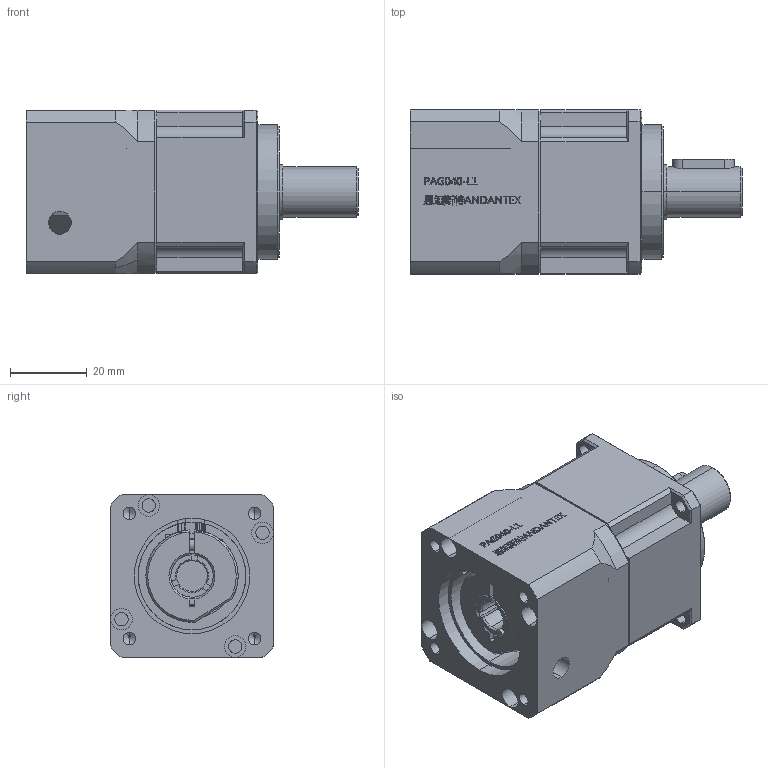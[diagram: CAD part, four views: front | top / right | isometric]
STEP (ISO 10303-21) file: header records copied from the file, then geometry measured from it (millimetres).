
FILE_DESCRIPTION (( 'STEP AP203' ), '1' );
FILE_NAME ('PAG040-L1.STEP', '2021-04-12T14:59:34', ( 'Windows User' ), ( 'P R C' ), 'SwSTEP 2.0', 'SolidWorks 2016', '' );
FILE_SCHEMA (( 'CONFIG_CONTROL_DESIGN' ));
Length unit declared in the file: millimetre
Products named in the file (8): PAG40-WZ01(帣釱)_1123; PAG40-CLZ05(喘謫粣); PAG40-SJH(坶踡遠); M3x12; 旮僱⑩粣創61902-2Z; 5X5X16; PAG040-L1; PAG40-CQ01（本体齿圈)
Assembly tree (7 placements, depth 2):
  PAG040-L1
    PAG40-CQ01（本体齿圈)
    PAG40-WZ01(帣釱)_1123
    PAG40-CLZ05(喘謫粣)
    PAG40-SJH(坶踡遠)
    M3x12
    旮僱⑩粣創61902-2Z
    5X5X16
Bounding box: 86.3 x 42.6 x 42.6 mm (x, y, z)
Volume: 97625.8 mm3; surface area: 34431.6 mm2
Topology: 20 solids, 20 shells, 1239 faces, 3530 edges, 2331 vertices
Faces by surface type: plane 697, bspline 179, cylinder 176, sphere 84, cone 55, torus 48
Entity records: 49817 total; most frequent: CARTESIAN_POINT 17969, ORIENTED_EDGE 7034, DIRECTION 5641, EDGE_CURVE 3517, VERTEX_POINT 2329, AXIS2_PLACEMENT_3D 1892, VECTOR 1857, LINE 1857
